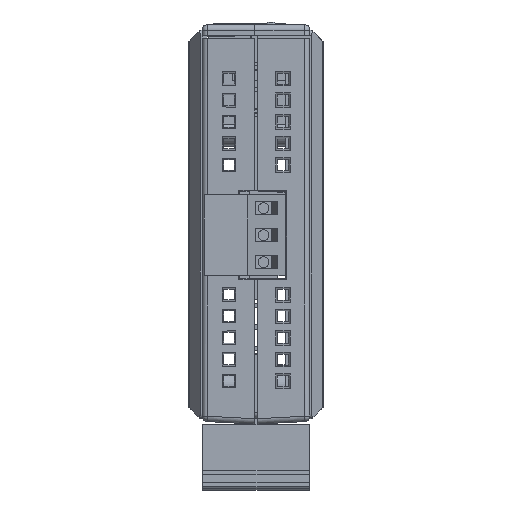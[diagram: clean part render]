
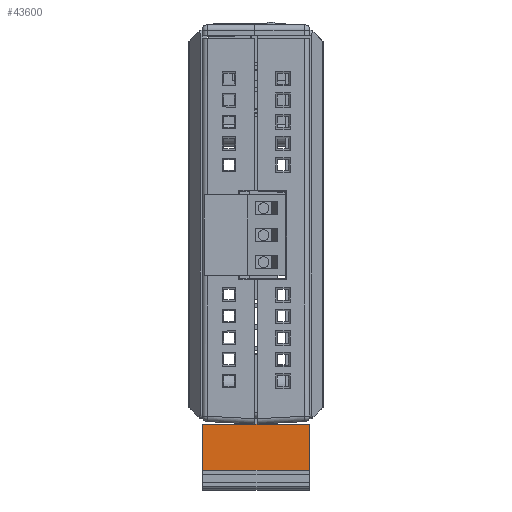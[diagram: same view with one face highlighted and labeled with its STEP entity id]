
A CAD part, left-side view. The second image highlights one B-rep face of the part: STEP entity #43600.
In plain terms, the highlighted planar face has unit normal (-1, 0, 0) as drawn and (0, 0, -1) by its records, which use the part's own axes.
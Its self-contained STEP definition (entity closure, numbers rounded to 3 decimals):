
#40582=DIRECTION('',(-1.,0.,0.));
#40583=VECTOR('',#40582,19.8);
#40584=CARTESIAN_POINT('',(9.9,-12.69,-38.35));
#40585=LINE('',#40584,#40583);
#40948=DIRECTION('',(0.,-1.,0.));
#40949=VECTOR('',#40948,8.54);
#40950=CARTESIAN_POINT('',(9.9,-4.15,-38.35));
#40951=LINE('',#40950,#40949);
#41294=DIRECTION('',(-1.,0.,0.));
#41295=VECTOR('',#41294,19.8);
#41296=CARTESIAN_POINT('',(9.9,-4.15,-38.35));
#41297=LINE('',#41296,#41295);
#41298=DIRECTION('',(0.,-1.,0.));
#41299=VECTOR('',#41298,8.54);
#41300=CARTESIAN_POINT('',(-9.9,-4.15,-38.35));
#41301=LINE('',#41300,#41299);
#41671=CARTESIAN_POINT('',(-9.9,-12.69,-38.35));
#41673=VERTEX_POINT('',#41671);
#41674=CARTESIAN_POINT('',(-9.9,-4.15,-38.35));
#41675=VERTEX_POINT('',#41674);
#41903=CARTESIAN_POINT('',(9.9,-12.69,-38.35));
#41905=VERTEX_POINT('',#41903);
#42056=CARTESIAN_POINT('',(9.9,-4.15,-38.35));
#42057=VERTEX_POINT('',#42056);
#43589=CARTESIAN_POINT('',(-9.9,-16.36,-38.35));
#43590=DIRECTION('',(0.,0.,-1.));
#43591=DIRECTION('',(0.,1.,0.));
#43592=AXIS2_PLACEMENT_3D('',#43589,#43590,#43591);
#43593=PLANE('',#43592);
#43594=ORIENTED_EDGE('',*,*,#42370,.F.);
#43595=ORIENTED_EDGE('',*,*,#42871,.F.);
#43596=ORIENTED_EDGE('',*,*,#43573,.T.);
#43597=ORIENTED_EDGE('',*,*,#42149,.T.);
#43598=EDGE_LOOP('',(#43594,#43595,#43596,#43597));
#43599=FACE_OUTER_BOUND('',#43598,.F.);
#43600=ADVANCED_FACE('',(#43599),#43593,.T.);
#42149=EDGE_CURVE('',#41675,#41673,#41301,.T.);
#42370=EDGE_CURVE('',#41905,#41673,#40585,.T.);
#42871=EDGE_CURVE('',#42057,#41905,#40951,.T.);
#43573=EDGE_CURVE('',#42057,#41675,#41297,.T.);
